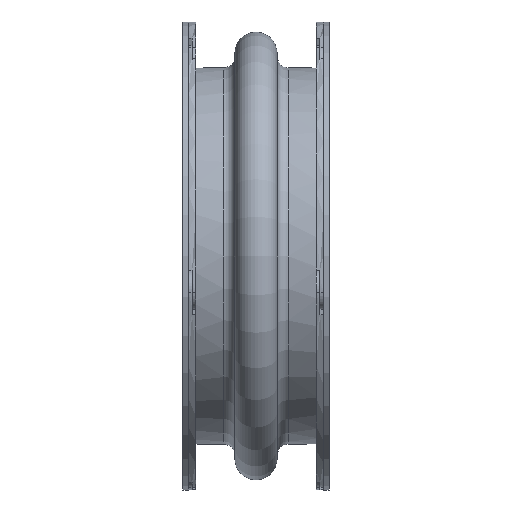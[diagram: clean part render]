
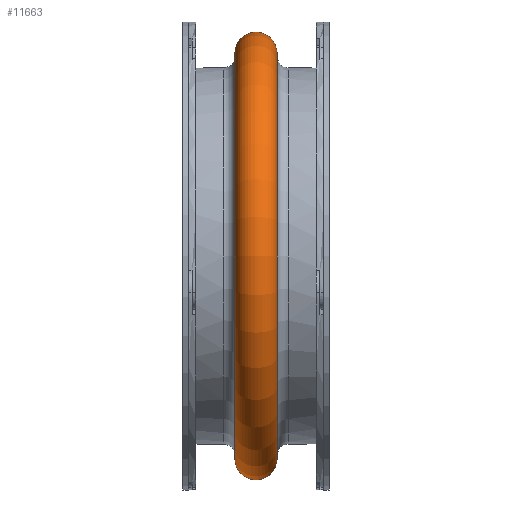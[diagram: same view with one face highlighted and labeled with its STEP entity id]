
A CAD part, front view. The second image highlights one B-rep face of the part: STEP entity #11663.
In plain terms, the highlighted toroidal (fillet/blend) face has major radius 352.425 mm and minor radius 36.513 mm.
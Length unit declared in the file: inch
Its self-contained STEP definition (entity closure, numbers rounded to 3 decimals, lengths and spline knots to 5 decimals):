
#274=FACE_BOUND('',#3249,.T.);
#782=TOROIDAL_SURFACE('',#13263,13.875,1.4375);
#1769=CIRCLE('',#13262,13.92263);
#1770=CIRCLE('',#13264,13.92263);
#2380=FACE_OUTER_BOUND('',#3248,.T.);
#3248=EDGE_LOOP('',(#10248));
#3249=EDGE_LOOP('',(#10249));
#5555=VERTEX_POINT('',#20736);
#5556=VERTEX_POINT('',#20739);
#7135=EDGE_CURVE('',#5555,#5555,#1769,.T.);
#7136=EDGE_CURVE('',#5556,#5556,#1770,.T.);
#10248=ORIENTED_EDGE('',*,*,#7136,.F.);
#10249=ORIENTED_EDGE('',*,*,#7135,.T.);
#11663=ADVANCED_FACE('',(#2380,#274),#782,.T.);
#13262=AXIS2_PLACEMENT_3D('',#20737,#17017,#17018);
#13263=AXIS2_PLACEMENT_3D('',#20738,#17019,#17020);
#13264=AXIS2_PLACEMENT_3D('',#20740,#17021,#17022);
#17017=DIRECTION('center_axis',(1.,0.,0.));
#17018=DIRECTION('ref_axis',(0.,0.,-1.));
#17019=DIRECTION('center_axis',(1.,0.,0.));
#17020=DIRECTION('ref_axis',(0.,0.,-1.));
#17021=DIRECTION('center_axis',(1.,0.,0.));
#17022=DIRECTION('ref_axis',(0.,0.,-1.));
#20736=CARTESIAN_POINT('',(-1.43671,13.92263,0.));
#20737=CARTESIAN_POINT('Origin',(-1.43671,0.,
0.));
#20738=CARTESIAN_POINT('Origin',(0.,0.,
0.));
#20739=CARTESIAN_POINT('',(1.43671,13.92263,0.));
#20740=CARTESIAN_POINT('Origin',(1.43671,0.,0.));
